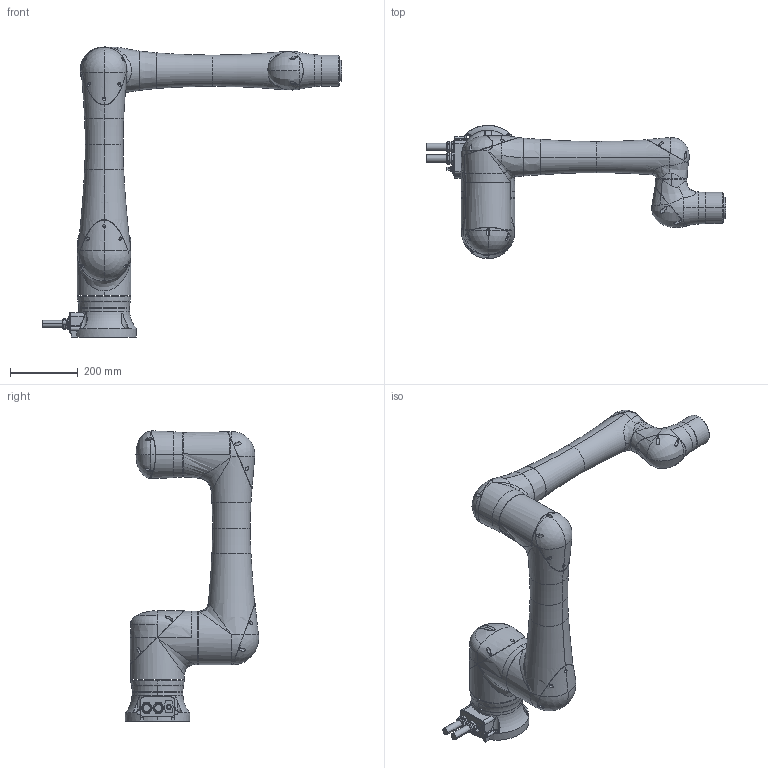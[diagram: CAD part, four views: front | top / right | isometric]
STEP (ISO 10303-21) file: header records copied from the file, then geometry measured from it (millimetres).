
FILE_DESCRIPTION(('STEP AP214'),'1');
FILE_NAME('3D_CRX-10iA_v01.stp','2020-12-21T04:24:37',('3D-Tool'),(' '),'Spatial InterOp 3D',' ',' ');
FILE_SCHEMA(('AUTOMOTIVE_DESIGN { 1 0 10303 214 1 1 1 1 }'));
Length unit declared in the file: millimetre
Products named in the file (12): J2ARM_UNIT; J3CASING_UNIT; J6FLANGE_UNIT; J5CASING_UNIT; J3ARM_UNIT; J2BASE_UNIT; J1BASE_UNIT; CONNECTOR_UNIT; CORDGRIP; CAM; J1PLATE
Assembly tree (12 placements, depth 3):
  (unnamed)
    J2ARM_UNIT
    J3CASING_UNIT
    J6FLANGE_UNIT
    J5CASING_UNIT
    J3ARM_UNIT
    J2BASE_UNIT
    J1BASE_UNIT
    CONNECTOR_UNIT
      CORDGRIP  x2
      CAM
      J1PLATE
Bounding box: 882 x 393.38 x 855 mm (x, y, z)
Volume: 26200871.4 mm3; surface area: 1225206.6 mm2
Topology: 17 solids, 23 shells, 1155 faces, 2803 edges, 1696 vertices
Faces by surface type: bspline 292, torus 231, cylinder 224, plane 216, cone 158, revolution 12, sphere 11, extrusion 11
Entity records: 81057 total; most frequent: CARTESIAN_POINT 48373, ORIENTED_EDGE 5238, DIRECTION 4646, EDGE_CURVE 2619, AXIS2_PLACEMENT_3D 2034, VERTEX_POINT 1608, CIRCLE 1216, EDGE_LOOP 1161
